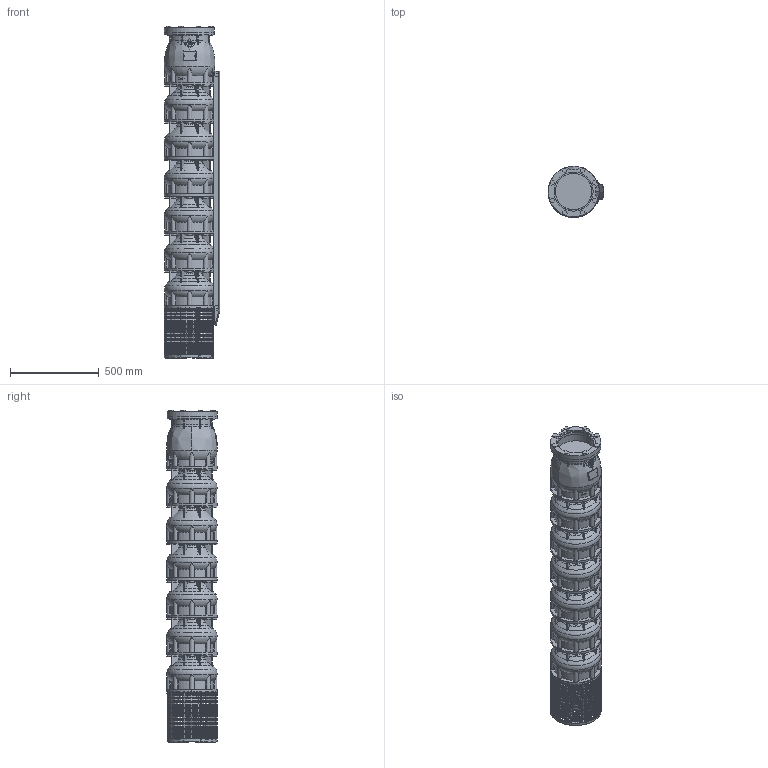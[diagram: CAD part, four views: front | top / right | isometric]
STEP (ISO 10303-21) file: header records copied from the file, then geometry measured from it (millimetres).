
FILE_DESCRIPTION(/* description */ ('-'),/* implementation_level */ '2;1');
FILE_NAME(/* name */ 'VSI344-6_WF_M12-50_DME',/* time_stamp */ '2026-01-21T11:16:23+01:00',/* author */ ('Simonelli M.'),/* organization */ ('Franklin Electric Srl'),/* preprocessor_version */ 'ST-DEVELOPER v18.102',/* originating_system */ 'Solid Edge',/* authorisation */ 'Unknown');
FILE_SCHEMA (('AUTOMOTIVE_DESIGN {1 0 10303 214 3 1 1}'));
Products named in the file (12): VSI344-6_WF_M12-50_DME; VSI344-454_testata; VSI344-454_supporto; VSI344-454_filtro_A; VSI344-454_filtro_B; VSI344-454_terminale_top_copricavo_medio; VSI344-454_terminale_bottom_copricavo_medio; MID 344-6; VSI344_diffusore; M5X8_UNI7687; VSI184-254_giunto_10×12; VSI344-454_flangia_testata
Assembly tree (25 placements, depth 2):
  VSI344-6_WF_M12-50_DME
    VSI344-454_testata
    VSI344-454_supporto
    VSI344-454_filtro_A
    VSI344-454_filtro_B
    VSI344-454_terminale_top_copricavo_medio
    VSI344-454_terminale_bottom_copricavo_medio
    MID 344-6
    VSI344_diffusore  x6
    M5X8_UNI7687  x10
    VSI184-254_giunto_10×12
    VSI344-454_flangia_testata
Bounding box: 314.3 x 286 x 1875 mm (x, y, z)
Volume: 78977024.4 mm3; surface area: 4189185.5 mm2
Topology: 90 solids, 90 shells, 4697 faces, 13215 edges, 8781 vertices
Faces by surface type: plane 3698, cylinder 518, torus 347, cone 109, bspline 15, sphere 10
Full cylindrical faces by diameter (mm): 5 x10, 16 x8, 35 x1, 65 x1, 79 x1, 150 x1, 207 x1, 220.5 x1, 285 x6
Entity records: 124593 total; most frequent: CARTESIAN_POINT 28076, ORIENTED_EDGE 20264, DIRECTION 19368, EDGE_CURVE 10132, VERTEX_POINT 6757, AXIS2_PLACEMENT_3D 6542, LINE 6284, VECTOR 6284
